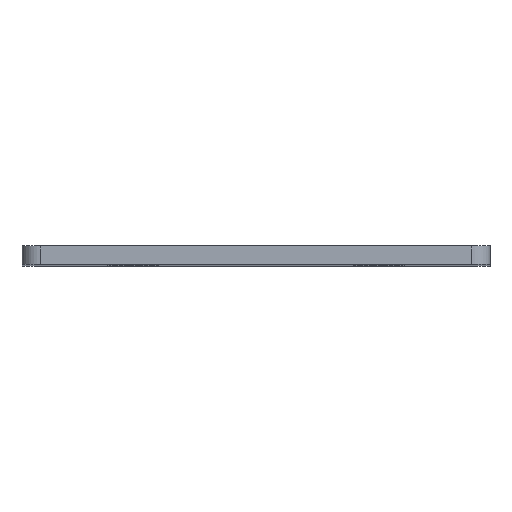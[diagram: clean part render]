
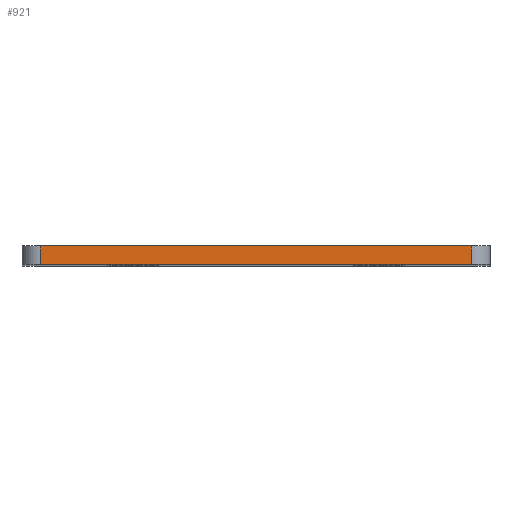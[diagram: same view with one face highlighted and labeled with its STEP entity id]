
A CAD part, top view. The second image highlights one B-rep face of the part: STEP entity #921.
In plain terms, the highlighted planar face has unit normal (0, 0, 1).
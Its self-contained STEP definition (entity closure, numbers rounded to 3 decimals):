
#26 = EDGE_CURVE ( 'NONE', #378, #824, #557, .T. ) ;
#28 = ORIENTED_EDGE ( 'NONE', *, *, #359, .T. ) ;
#137 = EDGE_LOOP ( 'NONE', ( #388, #28, #226, #585 ) ) ;
#158 = PLANE ( 'NONE',  #966 ) ;
#192 = DIRECTION ( 'NONE',  ( 1., 0., 0. ) ) ;
#212 = VECTOR ( 'NONE', #809, 1000. ) ;
#226 = ORIENTED_EDGE ( 'NONE', *, *, #26, .F. ) ;
#259 = VERTEX_POINT ( 'NONE', #427 ) ;
#268 = FACE_OUTER_BOUND ( 'NONE', #137, .T. ) ;
#359 = EDGE_CURVE ( 'NONE', #707, #824, #562, .T. ) ;
#378 = VERTEX_POINT ( 'NONE', #785 ) ;
#386 = CARTESIAN_POINT ( 'NONE',  ( 35., 3., 138. ) ) ;
#388 = ORIENTED_EDGE ( 'NONE', *, *, #498, .T. ) ;
#423 = DIRECTION ( 'NONE',  ( 0., 1., 0. ) ) ;
#427 = CARTESIAN_POINT ( 'NONE',  ( -35., 0., 138. ) ) ;
#481 = LINE ( 'NONE', #858, #575 ) ;
#498 = EDGE_CURVE ( 'NONE', #259, #707, #481, .T. ) ;
#540 = CARTESIAN_POINT ( 'NONE',  ( -38., 0., 138. ) ) ;
#557 = LINE ( 'NONE', #594, #212 ) ;
#562 = LINE ( 'NONE', #857, #717 ) ;
#575 = VECTOR ( 'NONE', #192, 1000. ) ;
#585 = ORIENTED_EDGE ( 'NONE', *, *, #916, .T. ) ;
#594 = CARTESIAN_POINT ( 'NONE',  ( -38., 3., 138. ) ) ;
#615 = DIRECTION ( 'NONE',  ( 0., 0., 1. ) ) ;
#680 = DIRECTION ( 'NONE',  ( 0., -1., 0. ) ) ;
#690 = DIRECTION ( 'NONE',  ( 1., 0., 0. ) ) ;
#707 = VERTEX_POINT ( 'NONE', #781 ) ;
#717 = VECTOR ( 'NONE', #423, 1000. ) ;
#749 = CARTESIAN_POINT ( 'NONE',  ( -35., 0., 138. ) ) ;
#781 = CARTESIAN_POINT ( 'NONE',  ( 35., 0., 138. ) ) ;
#785 = CARTESIAN_POINT ( 'NONE',  ( -35., 3., 138. ) ) ;
#809 = DIRECTION ( 'NONE',  ( 1., 0., 0. ) ) ;
#824 = VERTEX_POINT ( 'NONE', #386 ) ;
#857 = CARTESIAN_POINT ( 'NONE',  ( 35., 0., 138. ) ) ;
#858 = CARTESIAN_POINT ( 'NONE',  ( -38., 0., 138. ) ) ;
#860 = LINE ( 'NONE', #749, #914 ) ;
#914 = VECTOR ( 'NONE', #680, 1000. ) ;
#916 = EDGE_CURVE ( 'NONE', #378, #259, #860, .T. ) ;
#921 = ADVANCED_FACE ( 'NONE', ( #268 ), #158, .T. ) ;
#966 = AXIS2_PLACEMENT_3D ( 'NONE', #540, #615, #690 ) ;
